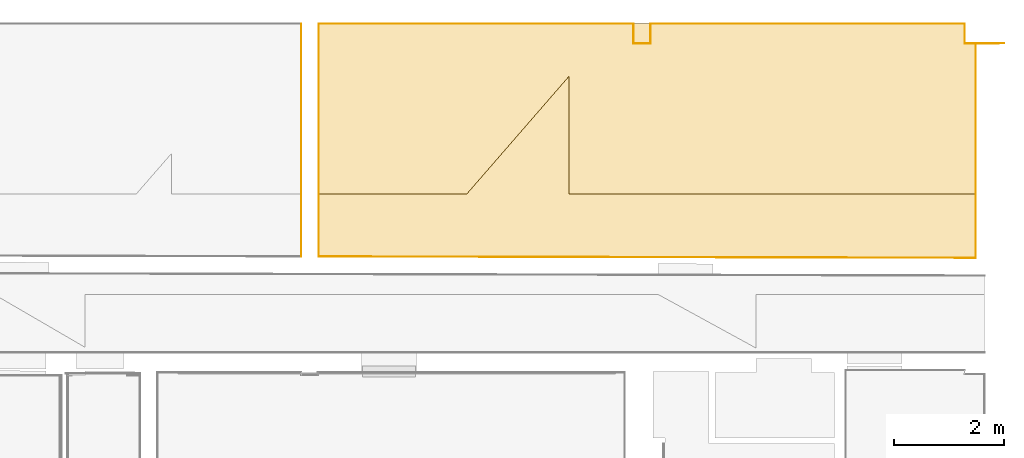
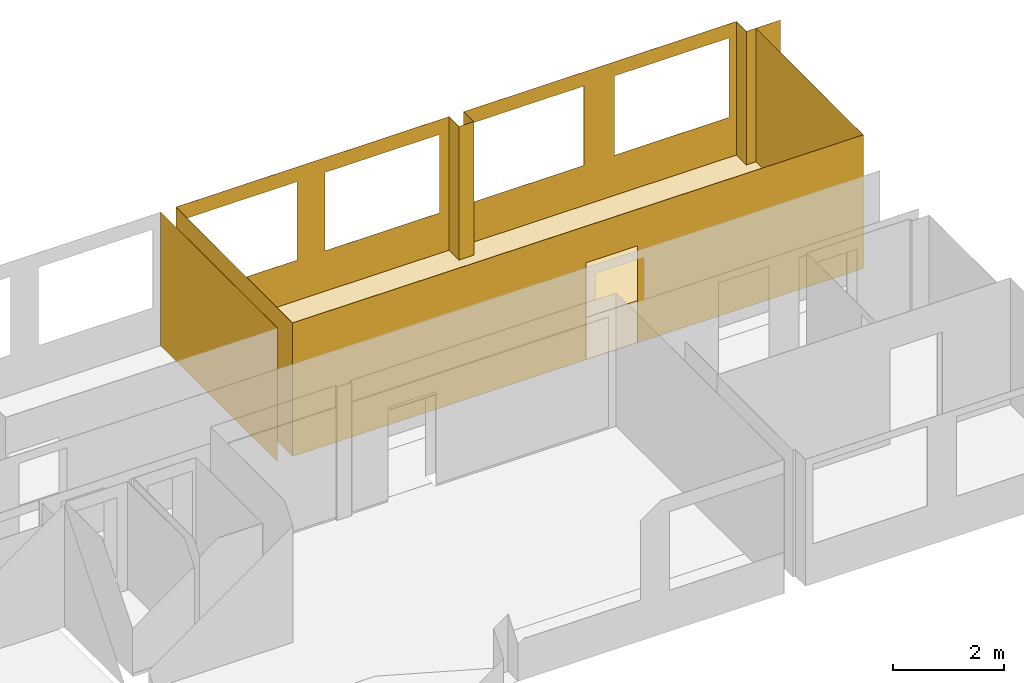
# One storey, part 14 of 16: 13 coverings, 5 openings.
"""IFC2X3 building model written with IfcOpenShell, lengths in millimetres."""

from ifc_helpers import new_model, entity, si_unit, converted_unit, derived_unit, money_unit, direction, frame, origin_with_axes, origin_2d_with_axis, place, context, subcontext, project, spatial, polyline, rectangle, outline, extrude, material, type_object, element, save


model = new_model("IFC2X3")

# Units and contexts
model_context = context("Model", 3, precision=0.01, world=origin_with_axes(), true_north=direction((0.0, 1.0)))
body_context = subcontext(model_context, "Body", "Model", "MODEL_VIEW")
ifc_project = project(units=[si_unit("LENGTHUNIT", "METRE", prefix="MILLI"), si_unit("AREAUNIT", "SQUARE_METRE"), si_unit("VOLUMEUNIT", "CUBIC_METRE"), converted_unit("PLANEANGLEUNIT", "DEGREE", entity("IfcPlaneAngleMeasure", 0.0174532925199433), si_unit("PLANEANGLEUNIT", "RADIAN"), dimensions=[0, 0, 0, 0, 0, 0, 0]), money_unit("EUR"), converted_unit("TIMEUNIT", "Year", entity("IfcTimeMeasure", 31556926.0), si_unit("TIMEUNIT", "SECOND"), dimensions=[0, 0, 1, 0, 0, 0, 0]), si_unit("MASSUNIT", "GRAM", prefix="KILO"), si_unit("THERMODYNAMICTEMPERATUREUNIT", "DEGREE_CELSIUS"), si_unit("LUMINOUSINTENSITYUNIT", "LUMEN"), si_unit("ENERGYUNIT", "JOULE", prefix="MEGA"), derived_unit("THERMALCONDUCTANCEUNIT", [(si_unit("POWERUNIT", "WATT"), 1), (si_unit("LENGTHUNIT", "METRE"), -1), (si_unit("THERMODYNAMICTEMPERATUREUNIT", "KELVIN"), -1)]), derived_unit("SPECIFICHEATCAPACITYUNIT", [(si_unit("ENERGYUNIT", "JOULE"), 1), (si_unit("MASSUNIT", "GRAM", prefix="KILO"), -1), (si_unit("THERMODYNAMICTEMPERATUREUNIT", "KELVIN"), -1)]), derived_unit("MASSDENSITYUNIT", [(si_unit("MASSUNIT", "GRAM", prefix="KILO"), 1), (si_unit("VOLUMEUNIT", "CUBIC_METRE"), -1)])], contexts=[model_context])

# Site, building, storey
site_placement = place(None, origin_with_axes())
site = spatial("IfcSite", under=ifc_project, at=site_placement, Name="Paldiski mnt 245/1, Tallinn, Harjumaa", CompositionType="COMPLEX")
building_placement = place(site_placement, origin_with_axes())
building = spatial("IfcBuilding", under=site, at=building_placement, Name="RKAS Hoone üldnimetus (kasutust iseloomustav) -> IFC Project Manager -> SOLIBRI", CompositionType="ELEMENT")
storey_placement = place(building_placement, frame((0.0, 0.0, 3300.0), z_axis=(0.0, 0.0, 1.0), x_axis=(1.0, 0.0, 0.0)))
storey = spatial("IfcBuildingStorey", under=building, at=storey_placement, Name="Teine korrus", CompositionType="ELEMENT", Elevation=3300.0)

# Coverings
ifc_material_1 = material(Name="SA- PM-2 vinüül hex")
covering_type_1 = type_object("IfcCoveringType", Name="SA- PM-2 vinüül hex 3", PredefinedType="FLOORING")
covering_1_placement = place(storey_placement, frame((-17389.99998863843, -3194.529221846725, 0.0), z_axis=(0.0, 0.0, 1.0), x_axis=(1.0, 0.0, 0.0)))
element("IfcCovering", 1, at=covering_1_placement, inside=storey, type_object=covering_type_1, material=ifc_material_1, Name="PM-2", PredefinedType="FLOORING", context=body_context, shape_type="SweptSolid", body=[
    extrude(outline(polyline([(0.0, 0.0), (-1.13608074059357e-05, 2724.529221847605), (-200.0000113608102, 2724.529221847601), (-200.0000113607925, 3084.529221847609), (-11920.00001136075, 3084.529221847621), (-11920.00001136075, 2724.52922184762), (-11907.99999641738, -7.685420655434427e-05), (-9221.058172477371, -2.231843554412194e-05), (-7371.155525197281, 2130.043290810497), (-7371.155623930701, 1.15950098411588e-05), (0.0, 0.0)])), origin_with_axes(), (0.0, 0.0, 1.0), 3.0),
])
ifc_material_2 = material(Name="SA- PM-3 vinüül rice")
covering_type_2 = type_object("IfcCoveringType", Name="SA- PM-3 vinüül rice 4", PredefinedType="FLOORING")
covering_2_placement = place(storey_placement, frame((-26611.05816647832, -3194.5292146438, 0.0), z_axis=(0.0, 0.0, 1.0), x_axis=(1.0, 0.0, 0.0)))
element("IfcCovering", 2, at=covering_2_placement, inside=storey, type_object=covering_type_2, material=ifc_material_2, Name="PM-3", PredefinedType="FLOORING", context=body_context, shape_type="SweptSolid", body=[
    extrude(outline(polyline([(0.0, 0.0), (-2686.941766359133, 0.0), (-2686.941766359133, -1030.791661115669), (-2686.446877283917, -1030.791661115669), (-2686.691748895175, -1138.547768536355), (3461.132643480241, -1151.496863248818), (4460.925096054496, -1153.599554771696), (4468.812435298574, -1153.616142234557), (9221.058166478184, -1163.61034904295), (9221.058223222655, 0.0), (1849.902638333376, 0.0), (1849.902638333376, 2130.043214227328), (0.0, 0.0)])), origin_with_axes(), (0.0, 0.0, 1.0), 4.0),
])
ifc_material_3 = material(Name="SA- Värv SM5(valge)")
covering_type_3 = type_object("IfcCoveringType", Name="SA- Värv SM5(valge) 5", PredefinedType="CLADDING")
covering_3_placement = place(storey_placement, frame((-17390.00000000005, -469.999999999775, 0.0), z_axis=(0.0, 0.0, 1.0), x_axis=(0.0, -1.0, 0.0)))
element("IfcCovering", 3, at=covering_3_placement, inside=storey, type_object=covering_type_3, material=ifc_material_3, Name="SM5", PredefinedType="CLADDING", context=body_context, shape_type="SweptSolid", body=[
    extrude(outline(polyline([(5.000000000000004, -4.999999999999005), (3883.129037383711, -4.999999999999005), (3883.139552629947, 0.0), (4.999999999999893, 0.0), (5.000000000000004, -4.999999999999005)])), origin_with_axes(), (0.0, 0.0, 1.0), 2950.0),
])
covering_4_placement = place(storey_placement, frame((-17590.00000000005, -469.9999999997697, 0.0), z_axis=(0.0, 0.0, 1.0), x_axis=(1.0, 0.0, 0.0)))
element("IfcCovering", 4, at=covering_4_placement, inside=storey, type_object=covering_type_3, material=ifc_material_3, Name="SM5", PredefinedType="CLADDING", context=body_context, shape_type="SweptSolid", body=[
    extrude(outline(polyline([(-4.999999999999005, -5.00000000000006), (199.9999999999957, -5.000000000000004), (710.0000000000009, 0.0), (0.0, 0.0), (-4.999999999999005, -5.00000000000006)])), origin_with_axes(), (0.0, 0.0, 1.0), 2950.0),
])
covering_5_placement = place(storey_placement, frame((-17590.00000000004, -109.9999999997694, 0.0), z_axis=(0.0, 0.0, 1.0), x_axis=(0.0, -1.0, 0.0)))
element("IfcCovering", 5, at=covering_5_placement, inside=storey, type_object=covering_type_3, material=ifc_material_3, Name="SM5", PredefinedType="CLADDING", context=body_context, shape_type="SweptSolid", body=[
    extrude(outline(polyline([(0.0, -4.999999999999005), (365.0000000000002, -4.999999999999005), (360.0000000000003, 0.0), (0.0, 0.0), (0.0, -4.999999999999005)])), origin_with_axes(), (0.0, 0.0, 1.0), 2950.0),
])

# Covering, openings
covering_6_placement = place(storey_placement, frame((-23289.99999999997, -109.9999999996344, 0.0), z_axis=(0.0, 0.0, 1.0), x_axis=(1.0, 0.0, 0.0)))
covering_6 = element("IfcCovering", 6, at=covering_6_placement, inside=storey, type_object=covering_type_3, material=ifc_material_3, Name="SM5", PredefinedType="CLADDING", context=body_context, shape_type="SweptSolid", body=[
    extrude(outline(polyline([(0.0, -5.000000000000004), (5699.999999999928, -5.000000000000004), (5699.999999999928, 0.0), (0.0, 0.0), (0.0, -5.000000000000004)])), origin_with_axes(), (0.0, 0.0, 1.0), 2950.0),
])
opening_1_placement = place(covering_6_placement, frame((23289.99999999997, 109.9999999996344, -3300.0), z_axis=(0.0, 0.0, 1.0), x_axis=(1.0, 0.0, 0.0)))
element("IfcOpeningElement", 7, at=opening_1_placement, cuts=covering_6, Name="AVA", ObjectType="OPENING", context=body_context, shape_type="SweptSolid", body=[
    extrude(rectangle(XDim=2394.192630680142, YDim=1752.999187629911, at=origin_2d_with_axis()), frame((-21976.35156929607, -119.9999999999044, 5063.500406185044), z_axis=(0.0, -1.0, 0.0), x_axis=(1.0, 0.0, 0.0)), (0.0, 0.0, -1.0), 15.00000000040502),
])
opening_2_placement = place(covering_6_placement, frame((23289.99999999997, 109.9999999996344, -3300.0), z_axis=(0.0, 0.0, 1.0), x_axis=(1.0, 0.0, 0.0)))
element("IfcOpeningElement", 8, at=opening_2_placement, cuts=covering_6, Name="AVA", ObjectType="OPENING", context=body_context, shape_type="SweptSolid", body=[
    extrude(rectangle(XDim=2394.192630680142, YDim=1752.999187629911, at=origin_2d_with_axis()), frame((-18944.66765309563, -119.9999999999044, 5063.500406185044), z_axis=(0.0, -1.0, 0.0), x_axis=(1.0, 0.0, 0.0)), (0.0, 0.0, -1.0), 15.00000000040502),
])

# Coverings
covering_7_placement = place(storey_placement, frame((-23289.99999999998, -469.9999999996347, 0.0), z_axis=(0.0, 0.0, 1.0), x_axis=(0.0, 1.0, 0.0)))
element("IfcCovering", 9, at=covering_7_placement, inside=storey, type_object=covering_type_3, material=ifc_material_3, Name="SM5", PredefinedType="CLADDING", context=body_context, shape_type="SweptSolid", body=[
    extrude(outline(polyline([(-4.999999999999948, -4.999999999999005), (359.9999999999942, -4.999999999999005), (359.9999999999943, 0.0), (0.0, 0.0), (-4.999999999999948, -4.999999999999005)])), origin_with_axes(), (0.0, 0.0, 1.0), 2950.0),
])
covering_8_placement = place(storey_placement, frame((-23589.99999999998, -469.9999999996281, 0.0), z_axis=(0.0, 0.0, 1.0), x_axis=(1.0, 0.0, 0.0)))
element("IfcCovering", 10, at=covering_8_placement, inside=storey, type_object=covering_type_3, material=ifc_material_3, Name="SM5", PredefinedType="CLADDING", context=body_context, shape_type="SweptSolid", body=[
    extrude(outline(polyline([(-4.999999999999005, -5.000000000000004), (304.9999999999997, -5.000000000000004), (300.0000000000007, 0.0), (0.0, 0.0), (-4.999999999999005, -5.000000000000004)])), origin_with_axes(), (0.0, 0.0, 1.0), 2950.0),
])
covering_9_placement = place(storey_placement, frame((-23589.99999999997, -109.9999999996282, 0.0), z_axis=(0.0, 0.0, 1.0), x_axis=(0.0, -1.0, 0.0)))
element("IfcCovering", 11, at=covering_9_placement, inside=storey, type_object=covering_type_3, material=ifc_material_3, Name="SM5", PredefinedType="CLADDING", context=body_context, shape_type="SweptSolid", body=[
    extrude(outline(polyline([(0.0, -4.999999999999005), (364.9999999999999, -4.999999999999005), (359.9999999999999, 0.0), (0.0, 0.0), (0.0, -4.999999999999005)])), origin_with_axes(), (0.0, 0.0, 1.0), 2950.0),
])
covering_10_placement = place(storey_placement, frame((-29298.00000000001, -4333.096453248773, 0.0), z_axis=(0.0, 0.0, 1.0), x_axis=(0.0, 1.0, 0.0)))
element("IfcCovering", 12, at=covering_10_placement, inside=storey, type_object=covering_type_3, material=ifc_material_3, Name="SM5", PredefinedType="CLADDING", context=body_context, shape_type="SweptSolid", body=[
    extrude(outline(polyline([(-0.01051524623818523, -4.999999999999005), (4223.09645324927, -4.999999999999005), (4223.09645324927, 0.0), (0.0, 0.0), (-0.01051524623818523, -4.999999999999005)])), origin_with_axes(), (0.0, 0.0, 1.0), 2950.0),
])
covering_11_placement = place(storey_placement, frame((-29609.99999999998, -109.9999999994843, 0.0), z_axis=(0.0, 0.0, 1.0), x_axis=(0.0, -1.0, 0.0)))
element("IfcCovering", 13, at=covering_11_placement, inside=storey, type_object=covering_type_3, material=ifc_material_3, Name="SM5", PredefinedType="CLADDING", context=body_context, shape_type="SweptSolid", body=[
    extrude(outline(polyline([(0.0, -4.999999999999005), (4222.386630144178, -4.999999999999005), (4222.397834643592, 0.0), (0.0, 0.0), (0.0, -4.999999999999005)])), origin_with_axes(), (0.0, 0.0, 1.0), 2950.0),
])

# Covering, openings
covering_12_placement = place(storey_placement, frame((-29297.99999999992, -110.0000323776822, 0.0), z_axis=(0.0, 0.0, 1.0), x_axis=(1.0, 5.672399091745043e-09, 0.0)))
covering_12 = element("IfcCovering", 14, at=covering_12_placement, inside=storey, type_object=covering_type_3, material=ifc_material_3, Name="SM5", PredefinedType="CLADDING", context=body_context, shape_type="SweptSolid", body=[
    extrude(outline(polyline([(0.0, -5.000000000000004), (5707.999999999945, -5.000000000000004), (5707.999999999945, 0.0), (0.0, 0.0), (0.0, -5.000000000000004)])), origin_with_axes(), (0.0, 0.0, 1.0), 2950.0),
])
opening_3_placement = place(covering_12_placement, frame((29298.00000062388, 109.9998661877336, -3300.0), z_axis=(0.0, 0.0, 1.0), x_axis=(1.0, -5.672399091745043e-09, 0.0)))
element("IfcOpeningElement", 15, at=opening_3_placement, cuts=covering_12, Name="AVA", ObjectType="OPENING", context=body_context, shape_type="SweptSolid", body=[
    extrude(rectangle(XDim=2396.529658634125, YDim=1732.380295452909, at=origin_2d_with_axis()), frame((-24989.36660345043, -120.0000647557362, 5059.465684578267), z_axis=(5.672399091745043e-09, -1.0, 0.0), x_axis=(1.0, 5.672399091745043e-09, 0.0)), (0.0, 0.0, -1.0), 15.00009713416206),
])
opening_4_placement = place(covering_12_placement, frame((29298.00000062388, 109.9998661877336, -3300.0), z_axis=(0.0, 0.0, 1.0), x_axis=(1.0, -5.672399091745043e-09, 0.0)))
element("IfcOpeningElement", 16, at=opening_4_placement, cuts=covering_12, Name="AVA", ObjectType="OPENING", context=body_context, shape_type="SweptSolid", body=[
    extrude(rectangle(XDim=2396.529658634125, YDim=1732.380295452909, at=origin_2d_with_axis()), frame((-27968.71401063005, -120.0000647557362, 5059.465684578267), z_axis=(5.672399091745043e-09, -1.0, 0.0), x_axis=(1.0, 5.672399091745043e-09, 0.0)), (0.0, 0.0, -1.0), 15.00009713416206),
])

# Covering, opening
ifc_material_4 = material(Name="SA- Värv SM6(kollane)")
covering_type_4 = type_object("IfcCoveringType", Name="SA- Värv SM6(kollane) 5", PredefinedType="CLADDING")
covering_13_placement = place(storey_placement, frame((-29298.00000000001, -4333.096453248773, 0.0), z_axis=(0.0, 0.0, 1.0), x_axis=(0.999997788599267, -0.002103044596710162, 0.0)))
covering_13 = element("IfcCovering", 17, at=covering_13_placement, inside=storey, type_object=covering_type_4, material=ifc_material_4, Name="SM6", PredefinedType="CLADDING", context=body_context, shape_type="SweptSolid", body=[
    extrude(outline(polyline([(0.0, 0.0), (11908.02633341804, 0.0), (11908.0158181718, 4.999999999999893), (-0.0105152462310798, 4.999999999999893), (0.0, 0.0)])), origin_with_axes(), (0.0, 0.0, 1.0), 2950.0),
])
opening_5_placement = place(covering_13_placement, frame((29288.82251529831, 4394.701871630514, -3300.0), z_axis=(0.0, 0.0, 1.0), x_axis=(0.999997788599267, 0.002103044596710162, 0.0)))
element("IfcOpeningElement", 18, at=opening_5_placement, cuts=covering_13, Name="AVA", ObjectType="OPENING", context=body_context, shape_type="SweptSolid", body=[
    extrude(rectangle(XDim=1079.667692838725, YDim=2144.57857706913, at=origin_2d_with_axis()), frame((-22637.2202788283, -4388.182663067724, 4372.289288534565), z_axis=(-0.002103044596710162, -0.999997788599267, 0.0), x_axis=(0.999997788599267, -0.002103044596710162, 0.0)), (0.0, 0.0, -1.0), 90.12949745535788),
])

save(model, "model.ifc")
